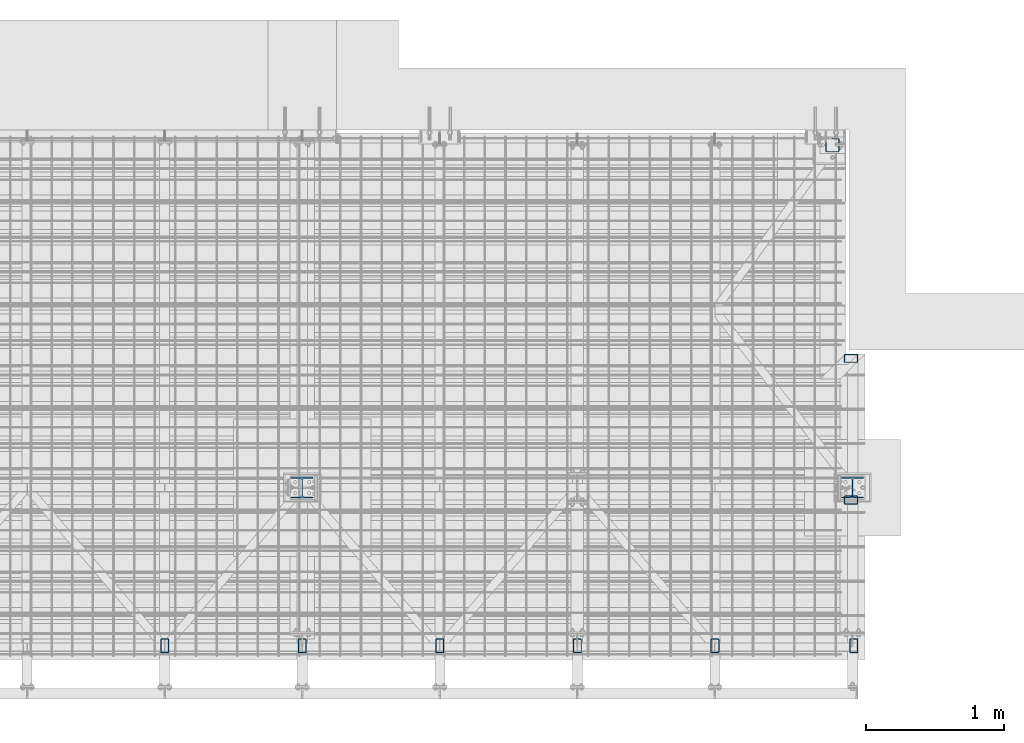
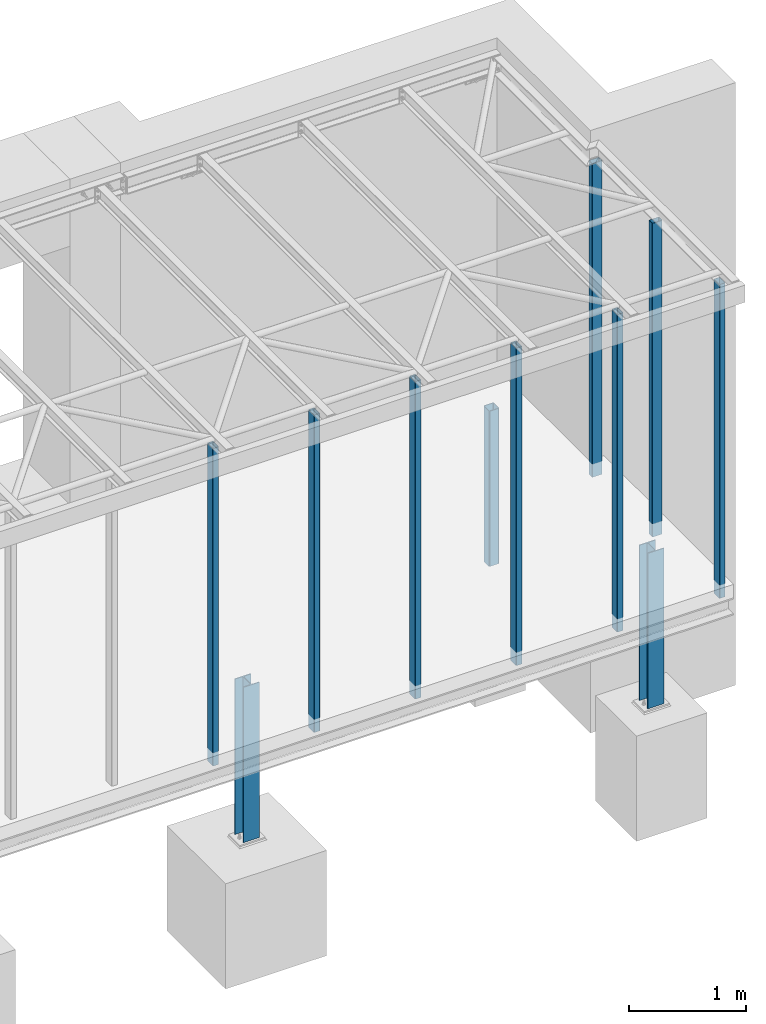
# One storey, part 2 of 27: 11 columns, 11 elements without a shape of their own.
"""IFC2X3 building model written with IfcOpenShell, lengths in millimetres."""

from ifc_helpers import new_model, si_unit, frame, origin_with_axes, origin_2d_with_axis, place, context, subcontext, project, spatial, hollow_rectangle, i_section, extrude, material, type_object, element, aggregate, save


model = new_model("IFC2X3")

# Units and contexts
model_context = context("Model", 3, precision=1e-05, world=origin_with_axes())
body_context = subcontext(model_context, "Body", "Model", "MODEL_VIEW")
ifc_project = project(units=[si_unit("LENGTHUNIT", "METRE", prefix="MILLI"), si_unit("AREAUNIT", "SQUARE_METRE"), si_unit("VOLUMEUNIT", "CUBIC_METRE"), si_unit("MASSUNIT", "GRAM", prefix="KILO"), si_unit("TIMEUNIT", "SECOND"), si_unit("PLANEANGLEUNIT", "RADIAN"), si_unit("SOLIDANGLEUNIT", "STERADIAN"), si_unit("THERMODYNAMICTEMPERATUREUNIT", "DEGREE_CELSIUS"), si_unit("LUMINOUSINTENSITYUNIT", "LUMEN")], contexts=[model_context])

# Site, building, storey
site_placement = place(None, origin_with_axes())
site = spatial("IfcSite", under=ifc_project, at=site_placement, Name="Undefined", CompositionType="ELEMENT")
building_placement = place(site_placement, origin_with_axes())
building = spatial("IfcBuilding", under=site, at=building_placement, Name="Undefined", CompositionType="ELEMENT")
storey_placement = place(building_placement, origin_with_axes())
storey = spatial("IfcBuildingStorey", under=building, at=storey_placement, Name="Undefined", CompositionType="ELEMENT", Elevation=0.0)

# Assembly, column
assembly_1_placement = place(storey_placement, origin_with_axes())
assembly_1 = element("IfcElementAssembly", 1, at=assembly_1_placement, inside=storey, Name="Steel Assembly", AssemblyPlace="NOTDEFINED", PredefinedType="RIGID_FRAME")
ifc_material = material(Name="STEEL/S235JR")
column_type_1 = type_object("IfcColumnType", Name="RHS100*60*3.2", PredefinedType="NOTDEFINED")
column_1_placement = place(assembly_1_placement, frame((16040.0, 2200.0, -160.0), z_axis=(0.0, 0.0, 1.0), x_axis=(-1.0, 0.0, 0.0)))
column_1 = element("IfcColumn", 2, at=column_1_placement, type_object=column_type_1, material=ifc_material, Name="STLP", ObjectType="RHS100*60*3.2", context=body_context, shape_type="SweptSolid", body=[
    extrude(hollow_rectangle(XDim=60.0, YDim=100.0, WallThickness=3.2, InnerFilletRadius=3.2, OuterFilletRadius=6.4, at=origin_2d_with_axis()), frame((0.0, 0.0, 3280.0), z_axis=(0.0, 0.0, -1.0), x_axis=(0.0, 1.0, 0.0)), (0.0, 0.0, 1.0), 3280.0),
])
aggregate(assembly_1, [column_1])

assembly_2_placement = place(storey_placement, origin_with_axes())
assembly_2 = element("IfcElementAssembly", 3, at=assembly_2_placement, inside=storey, Name="Steel Assembly", AssemblyPlace="NOTDEFINED", PredefinedType="RIGID_FRAME")
column_2_placement = place(assembly_2_placement, frame((16060.0, 110.0, -160.0), z_axis=(0.0, 0.0, 1.0), x_axis=(0.0, -1.0, 0.0)))
column_2 = element("IfcColumn", 4, at=column_2_placement, type_object=column_type_1, material=ifc_material, Name="STLP", ObjectType="RHS100*60*3.2", context=body_context, shape_type="SweptSolid", body=[
    extrude(hollow_rectangle(XDim=60.0, YDim=100.0, WallThickness=3.2, InnerFilletRadius=3.2, OuterFilletRadius=6.4, at=origin_2d_with_axis()), frame((0.0, 0.0, 3280.0), z_axis=(0.0, 0.0, -1.0), x_axis=(0.0, 1.0, 0.0)), (0.0, 0.0, 1.0), 3280.0),
])
aggregate(assembly_2, [column_2])

assembly_3_placement = place(storey_placement, origin_with_axes())
assembly_3 = element("IfcElementAssembly", 5, at=assembly_3_placement, inside=storey, Name="Steel Assembly", AssemblyPlace="NOTDEFINED", PredefinedType="RIGID_FRAME")
column_3_placement = place(assembly_3_placement, frame((15050.0, 110.0, -160.0), z_axis=(0.0, 0.0, 1.0), x_axis=(0.0, 1.0, 0.0)))
column_3 = element("IfcColumn", 6, at=column_3_placement, type_object=column_type_1, material=ifc_material, Name="STLP", ObjectType="RHS100*60*3.2", context=body_context, shape_type="SweptSolid", body=[
    extrude(hollow_rectangle(XDim=60.0, YDim=100.0, WallThickness=3.2, InnerFilletRadius=3.2, OuterFilletRadius=6.4, at=origin_2d_with_axis()), frame((0.0, 0.0, 3320.0), z_axis=(0.0, 0.0, -1.0), x_axis=(0.0, 1.0, 0.0)), (0.0, 0.0, 1.0), 3320.0),
])
aggregate(assembly_3, [column_3])

assembly_4_placement = place(storey_placement, origin_with_axes())
assembly_4 = element("IfcElementAssembly", 7, at=assembly_4_placement, inside=storey, Name="Steel Assembly", AssemblyPlace="NOTDEFINED", PredefinedType="RIGID_FRAME")
column_4_placement = place(assembly_4_placement, frame((14050.0, 110.0, -160.0), z_axis=(0.0, 0.0, 1.0), x_axis=(0.0, 1.0, 0.0)))
column_4 = element("IfcColumn", 8, at=column_4_placement, type_object=column_type_1, material=ifc_material, Name="STLP", ObjectType="RHS100*60*3.2", context=body_context, shape_type="SweptSolid", body=[
    extrude(hollow_rectangle(XDim=60.0, YDim=100.0, WallThickness=3.2, InnerFilletRadius=3.2, OuterFilletRadius=6.4, at=origin_2d_with_axis()), frame((0.0, 0.0, 3320.0), z_axis=(0.0, 0.0, -1.0), x_axis=(0.0, 1.0, 0.0)), (0.0, 0.0, 1.0), 3320.0),
])
aggregate(assembly_4, [column_4])

assembly_5_placement = place(storey_placement, origin_with_axes())
assembly_5 = element("IfcElementAssembly", 9, at=assembly_5_placement, inside=storey, Name="Steel Assembly", AssemblyPlace="NOTDEFINED", PredefinedType="RIGID_FRAME")
column_5_placement = place(assembly_5_placement, frame((13050.0, 110.0, -160.0), z_axis=(0.0, 0.0, 1.0), x_axis=(0.0, 1.0, 0.0)))
column_5 = element("IfcColumn", 10, at=column_5_placement, type_object=column_type_1, material=ifc_material, Name="STLP", ObjectType="RHS100*60*3.2", context=body_context, shape_type="SweptSolid", body=[
    extrude(hollow_rectangle(XDim=60.0, YDim=100.0, WallThickness=3.2, InnerFilletRadius=3.2, OuterFilletRadius=6.4, at=origin_2d_with_axis()), frame((0.0, 0.0, 3320.0), z_axis=(0.0, 0.0, -1.0), x_axis=(0.0, 1.0, 0.0)), (0.0, 0.0, 1.0), 3320.0),
])
aggregate(assembly_5, [column_5])

assembly_6_placement = place(storey_placement, origin_with_axes())
assembly_6 = element("IfcElementAssembly", 11, at=assembly_6_placement, inside=storey, Name="Steel Assembly", AssemblyPlace="NOTDEFINED", PredefinedType="RIGID_FRAME")
column_6_placement = place(assembly_6_placement, frame((11050.0, 110.0, -160.0), z_axis=(0.0, 0.0, 1.0), x_axis=(0.0, 1.0, 0.0)))
column_6 = element("IfcColumn", 12, at=column_6_placement, type_object=column_type_1, material=ifc_material, Name="STLP", ObjectType="RHS100*60*3.2", context=body_context, shape_type="SweptSolid", body=[
    extrude(hollow_rectangle(XDim=60.0, YDim=100.0, WallThickness=3.2, InnerFilletRadius=3.2, OuterFilletRadius=6.4, at=origin_2d_with_axis()), frame((0.0, 0.0, 3320.0), z_axis=(0.0, 0.0, -1.0), x_axis=(0.0, 1.0, 0.0)), (0.0, 0.0, 1.0), 3320.0),
])
aggregate(assembly_6, [column_6])

assembly_7_placement = place(storey_placement, origin_with_axes())
assembly_7 = element("IfcElementAssembly", 13, at=assembly_7_placement, inside=storey, Name="Steel Assembly", AssemblyPlace="NOTDEFINED", PredefinedType="RIGID_FRAME")
column_7_placement = place(assembly_7_placement, frame((16040.0, 1170.0, -160.0), z_axis=(0.0, 0.0, 1.0), x_axis=(-1.0, 0.0, 0.0)))
column_7 = element("IfcColumn", 14, at=column_7_placement, type_object=column_type_1, material=ifc_material, Name="STLP", ObjectType="RHS100*60*3.2", context=body_context, shape_type="SweptSolid", body=[
    extrude(hollow_rectangle(XDim=60.0, YDim=100.0, WallThickness=3.2, InnerFilletRadius=3.2, OuterFilletRadius=6.4, at=origin_2d_with_axis()), frame((0.0, 0.0, 3280.0), z_axis=(0.0, 0.0, -1.0), x_axis=(0.0, 1.0, 0.0)), (0.0, 0.0, 1.0), 3280.0),
])
aggregate(assembly_7, [column_7])

assembly_8_placement = place(storey_placement, origin_with_axes())
assembly_8 = element("IfcElementAssembly", 15, at=assembly_8_placement, inside=storey, Name="Steel Assembly", AssemblyPlace="NOTDEFINED", PredefinedType="RIGID_FRAME")
column_8_placement = place(assembly_8_placement, frame((12050.0, 110.0, -160.0), z_axis=(0.0, 0.0, 1.0), x_axis=(0.0, 1.0, 0.0)))
column_8 = element("IfcColumn", 16, at=column_8_placement, type_object=column_type_1, material=ifc_material, Name="STLP", ObjectType="RHS100*60*3.2", context=body_context, shape_type="SweptSolid", body=[
    extrude(hollow_rectangle(XDim=60.0, YDim=100.0, WallThickness=3.2, InnerFilletRadius=3.2, OuterFilletRadius=6.4, at=origin_2d_with_axis()), frame((0.0, 0.0, 3320.0), z_axis=(0.0, 0.0, -1.0), x_axis=(0.0, 1.0, 0.0)), (0.0, 0.0, 1.0), 3320.0),
])
aggregate(assembly_8, [column_8])

assembly_9_placement = place(storey_placement, origin_with_axes())
assembly_9 = element("IfcElementAssembly", 17, at=assembly_9_placement, inside=storey, Name="Steel Assembly", AssemblyPlace="NOTDEFINED", PredefinedType="RIGID_FRAME")
column_type_2 = type_object("IfcColumnType", Name="SHS100*5", PredefinedType="NOTDEFINED")
column_9_placement = place(assembly_9_placement, frame((15905.0, 3750.0, -1975.0), z_axis=(0.0, 0.0, 1.0), x_axis=(0.0, 1.0, 0.0)))
column_9 = element("IfcColumn", 18, at=column_9_placement, type_object=column_type_2, material=ifc_material, Name="STLP", ObjectType="SHS100*5", context=body_context, shape_type="SweptSolid", body=[
    extrude(hollow_rectangle(XDim=100.0, YDim=100.0, WallThickness=5.0, InnerFilletRadius=5.0, OuterFilletRadius=10.0, at=origin_2d_with_axis()), frame((0.0, 0.0, 1625.0), z_axis=(0.0, 0.0, -1.0), x_axis=(0.0, 1.0, 0.0)), (0.0, 0.0, 1.0), 1625.0),
])
aggregate(assembly_9, [column_9])

assembly_10_placement = place(storey_placement, origin_with_axes())
assembly_10 = element("IfcElementAssembly", 19, at=assembly_10_placement, inside=storey, Name="Steel Assembly", AssemblyPlace="NOTDEFINED", PredefinedType="RIGID_FRAME")
column_type_3 = type_object("IfcColumnType", Name="HEA160", PredefinedType="NOTDEFINED")
column_10_placement = place(assembly_10_placement, frame((16050.0, 1260.0, -1975.0), z_axis=(0.0, 0.0, 1.0), x_axis=(0.0, 1.0, 0.0)))
column_10 = element("IfcColumn", 20, at=column_10_placement, type_object=column_type_3, material=ifc_material, Name="STLP", ObjectType="HEA160", context=body_context, shape_type="SweptSolid", body=[
    extrude(i_section(OverallWidth=160.0, OverallDepth=152.0, WebThickness=6.0, FlangeThickness=9.0, FilletRadius=15.0, at=origin_2d_with_axis()), frame((0.0, 0.0, 1625.0), z_axis=(0.0, 0.0, -1.0), x_axis=(0.0, 1.0, 0.0)), (0.0, 0.0, 1.0), 1625.0),
])
aggregate(assembly_10, [column_10])

assembly_11_placement = place(storey_placement, origin_with_axes())
assembly_11 = element("IfcElementAssembly", 21, at=assembly_11_placement, inside=storey, Name="Steel Assembly", AssemblyPlace="NOTDEFINED", PredefinedType="RIGID_FRAME")
column_11_placement = place(assembly_11_placement, frame((12050.0, 1260.0, -1975.0), z_axis=(0.0, 0.0, 1.0), x_axis=(0.0, 1.0, 0.0)))
column_11 = element("IfcColumn", 22, at=column_11_placement, type_object=column_type_3, material=ifc_material, Name="STLP", ObjectType="HEA160", context=body_context, shape_type="SweptSolid", body=[
    extrude(i_section(OverallWidth=160.0, OverallDepth=152.0, WebThickness=6.0, FlangeThickness=9.0, FilletRadius=15.0, at=origin_2d_with_axis()), frame((0.0, 0.0, 1625.0), z_axis=(0.0, 0.0, -1.0), x_axis=(0.0, 1.0, 0.0)), (0.0, 0.0, 1.0), 1625.0),
])
aggregate(assembly_11, [column_11])

save(model, "model.ifc")
